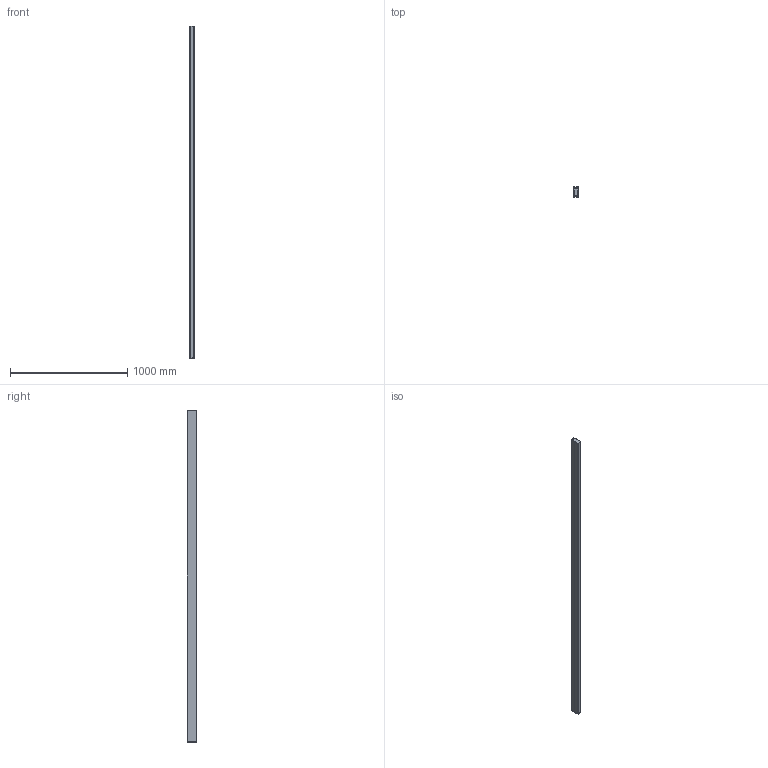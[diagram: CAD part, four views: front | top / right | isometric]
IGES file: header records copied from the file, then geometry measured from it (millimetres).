
Start section: SolidWorks IGES file using analytic representation for surfaces
Global section: file name: C:\Users\JoãoSantos\Desktop\02_3D.2D\01_2020\02_Linear\04_U35\02_Surface\U35_SURFACE_2831.IGS; native system: SolidWorks 2020; preprocessor: SolidWorks 2020; author: JoãoSantos; date: 201022.122242; units: millimetre
Bounding box: 35 x 85 x 2831 mm (x, y, z)
Surface area: 1504069.3 mm2 (no closed solid volume)
Topology: 0 solids, 0 shells, 277 faces, 1824 edges, 1824 vertices
Faces by surface type: bspline 228, revolution 49
